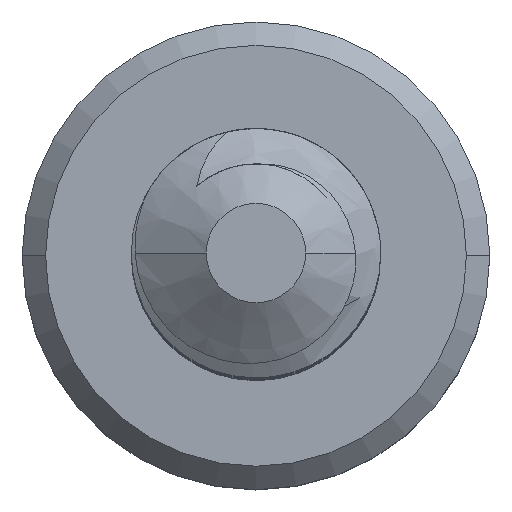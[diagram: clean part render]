
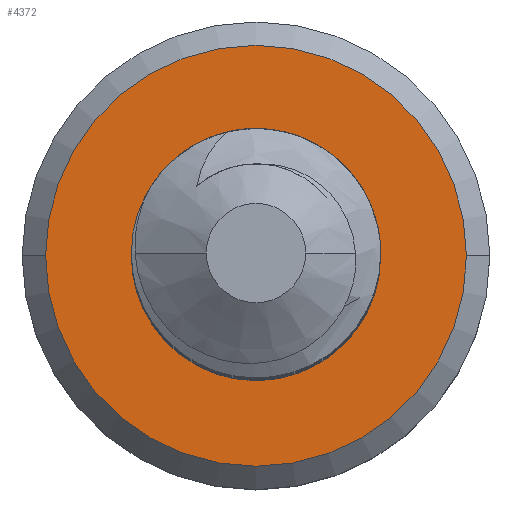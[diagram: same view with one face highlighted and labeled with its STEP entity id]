
A CAD part, top view. The second image highlights one B-rep face of the part: STEP entity #4372.
In plain terms, the highlighted planar face has unit normal (0, 0, 1).
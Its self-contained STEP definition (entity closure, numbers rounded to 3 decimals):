
#231 = B_SPLINE_CURVE_WITH_KNOTS ( 'NONE', 3,
 ( #7306, #4489, #4517, #1094, #5086, #1663, #5671, #2259, #6236, #2846 ),
 .UNSPECIFIED., .F., .F.,
 ( 4, 2, 2, 2, 4 ),
 ( 0., 0., 0.001, 0.001, 0.002 ),
 .UNSPECIFIED. ) ;
#568 = ORIENTED_EDGE ( 'NONE', *, *, #1169, .T. ) ;
#668 = PLANE ( 'NONE',  #6405 ) ;
#714 = CIRCLE ( 'NONE', #7195, 0.573 ) ;
#746 = FACE_BOUND ( 'NONE', #5867, .T. ) ;
#937 = EDGE_CURVE ( 'NONE', #4979, #3663, #6664, .T. ) ;
#969 = CARTESIAN_POINT ( 'NONE',  ( -0.349, -0.72, -10. ) ) ;
#1094 = CARTESIAN_POINT ( 'NONE',  ( 0.648, 0.168, -10. ) ) ;
#1169 = EDGE_CURVE ( 'NONE', #3727, #3321, #714, .T. ) ;
#1240 = DIRECTION ( 'NONE',  ( 0., 0., -1. ) ) ;
#1438 = B_SPLINE_CURVE_WITH_KNOTS ( 'NONE', 3,
 ( #969, #4394, #1534, #5548, #2119, #6110, #2720, #6655, #3278, #7203 ),
 .UNSPECIFIED., .F., .F.,
 ( 4, 2, 2, 2, 4 ),
 ( 0., 0., 0.001, 0.001, 0.002 ),
 .UNSPECIFIED. ) ;
#1526 = EDGE_LOOP ( 'NONE', ( #2336, #3560 ) ) ;
#1534 = CARTESIAN_POINT ( 'NONE',  ( -0.557, -0.541, -10. ) ) ;
#1553 = AXIS2_PLACEMENT_3D ( 'NONE', #5877, #2475, #6415 ) ;
#1564 = CARTESIAN_POINT ( 'NONE',  ( 0., 0., -10. ) ) ;
#1663 = CARTESIAN_POINT ( 'NONE',  ( 0.687, -0.239, -10. ) ) ;
#1918 = EDGE_CURVE ( 'NONE', #2083, #6203, #2422, .T. ) ;
#2083 = VERTEX_POINT ( 'NONE', #6317 ) ;
#2119 = CARTESIAN_POINT ( 'NONE',  ( -0.709, -0.164, -10. ) ) ;
#2154 = DIRECTION ( 'NONE',  ( 1., 0., 0. ) ) ;
#2259 = CARTESIAN_POINT ( 'NONE',  ( 0.495, -0.598, -10. ) ) ;
#2336 = ORIENTED_EDGE ( 'NONE', *, *, #937, .T. ) ;
#2422 = CIRCLE ( 'NONE', #2538, 0.8 ) ;
#2475 = DIRECTION ( 'NONE',  ( 0., 0., 1. ) ) ;
#2526 = EDGE_CURVE ( 'NONE', #2083, #3727, #1438, .T. ) ;
#2538 = AXIS2_PLACEMENT_3D ( 'NONE', #1564, #5569, #2154 ) ;
#2720 = CARTESIAN_POINT ( 'NONE',  ( -0.627, 0.236, -10. ) ) ;
#2846 = CARTESIAN_POINT ( 'NONE',  ( 0.27, -0.753, -10. ) ) ;
#2974 = CARTESIAN_POINT ( 'NONE',  ( 0., 0., -10. ) ) ;
#3278 = CARTESIAN_POINT ( 'NONE',  ( -0.328, 0.516, -10. ) ) ;
#3321 = VERTEX_POINT ( 'NONE', #5789 ) ;
#3560 = ORIENTED_EDGE ( 'NONE', *, *, #4938, .T. ) ;
#3663 = VERTEX_POINT ( 'NONE', #7217 ) ;
#3727 = VERTEX_POINT ( 'NONE', #4477 ) ;
#3907 = AXIS2_PLACEMENT_3D ( 'NONE', #5779, #5726, #5700 ) ;
#4372 = ADVANCED_FACE ( 'NONE', ( #4877, #746 ), #668, .F. ) ;
#4394 = CARTESIAN_POINT ( 'NONE',  ( -0.464, -0.645, -10. ) ) ;
#4477 = CARTESIAN_POINT ( 'NONE',  ( -0.193, 0.539, -10. ) ) ;
#4489 = CARTESIAN_POINT ( 'NONE',  ( 0.382, 0.478, -10. ) ) ;
#4517 = CARTESIAN_POINT ( 'NONE',  ( 0.495, 0.393, -10. ) ) ;
#4869 = ORIENTED_EDGE ( 'NONE', *, *, #1918, .F. ) ;
#4877 = FACE_OUTER_BOUND ( 'NONE', #1526, .T. ) ;
#4938 = EDGE_CURVE ( 'NONE', #3663, #4979, #6529, .T. ) ;
#4979 = VERTEX_POINT ( 'NONE', #5950 ) ;
#5086 = CARTESIAN_POINT ( 'NONE',  ( 0.689, 0.034, -10. ) ) ;
#5212 = EDGE_CURVE ( 'NONE', #3321, #6203, #231, .T. ) ;
#5240 = DIRECTION ( 'NONE',  ( -1., 0., 0. ) ) ;
#5548 = CARTESIAN_POINT ( 'NONE',  ( -0.681, -0.302, -10. ) ) ;
#5569 = DIRECTION ( 'NONE',  ( 0., 0., 1. ) ) ;
#5651 = CARTESIAN_POINT ( 'NONE',  ( 0.27, -0.753, -10. ) ) ;
#5671 = CARTESIAN_POINT ( 'NONE',  ( 0.644, -0.372, -10. ) ) ;
#5700 = DIRECTION ( 'NONE',  ( -1., 0., 0. ) ) ;
#5726 = DIRECTION ( 'NONE',  ( 0., 0., 1. ) ) ;
#5779 = CARTESIAN_POINT ( 'NONE',  ( 0., 0., -10. ) ) ;
#5789 = CARTESIAN_POINT ( 'NONE',  ( 0.25, 0.515, -10. ) ) ;
#5867 = EDGE_LOOP ( 'NONE', ( #4869, #6019, #568, #6783 ) ) ;
#5877 = CARTESIAN_POINT ( 'NONE',  ( 0., 0., -10. ) ) ;
#5950 = CARTESIAN_POINT ( 'NONE',  ( -1.35, 0., -10. ) ) ;
#6019 = ORIENTED_EDGE ( 'NONE', *, *, #2526, .T. ) ;
#6110 = CARTESIAN_POINT ( 'NONE',  ( -0.681, 0.107, -10. ) ) ;
#6203 = VERTEX_POINT ( 'NONE', #5651 ) ;
#6236 = CARTESIAN_POINT ( 'NONE',  ( 0.392, -0.692, -10. ) ) ;
#6317 = CARTESIAN_POINT ( 'NONE',  ( -0.349, -0.72, -10. ) ) ;
#6405 = AXIS2_PLACEMENT_3D ( 'NONE', #2974, #1240, #5240 ) ;
#6415 = DIRECTION ( 'NONE',  ( -1., 0., 0. ) ) ;
#6529 = CIRCLE ( 'NONE', #1553, 1.35 ) ;
#6655 = CARTESIAN_POINT ( 'NONE',  ( -0.452, 0.444, -10. ) ) ;
#6664 = CIRCLE ( 'NONE', #3907, 1.35 ) ;
#6783 = ORIENTED_EDGE ( 'NONE', *, *, #5212, .T. ) ;
#7195 = AXIS2_PLACEMENT_3D ( 'NONE', #7283, #7260, #7237 ) ;
#7203 = CARTESIAN_POINT ( 'NONE',  ( -0.193, 0.539, -10. ) ) ;
#7217 = CARTESIAN_POINT ( 'NONE',  ( 1.35, 0., -10. ) ) ;
#7237 = DIRECTION ( 'NONE',  ( 1., 0., 0. ) ) ;
#7260 = DIRECTION ( 'NONE',  ( 0., 0., -1. ) ) ;
#7283 = CARTESIAN_POINT ( 'NONE',  ( 0., 0., -10. ) ) ;
#7306 = CARTESIAN_POINT ( 'NONE',  ( 0.25, 0.515, -10. ) ) ;
